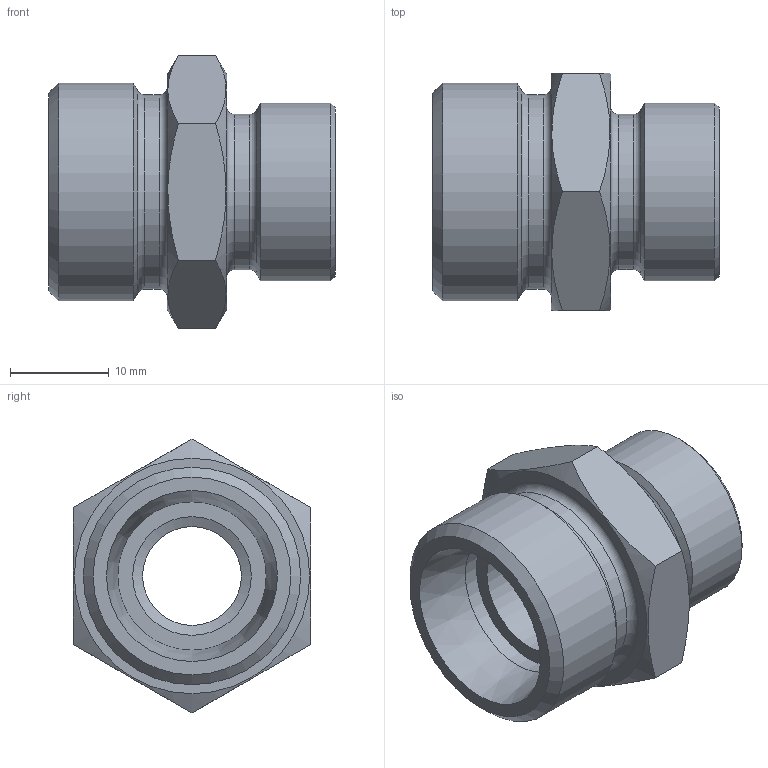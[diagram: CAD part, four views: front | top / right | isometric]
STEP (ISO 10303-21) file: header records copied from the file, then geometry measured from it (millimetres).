
FILE_DESCRIPTION( ( 'Unknown' ), '1' );
FILE_NAME( 'C:/Users/p.nanko/Desktop/3D SR/XGR1512L.stp', 'Unknown', ( 'Peter Nanko' ), ( 'Armaturen Arndt' ), 'PSStep 14.0', 'Solid Edge ST4', ' ' );
FILE_SCHEMA( ( 'AUTOMOTIVE_DESIGN { 1 0 10303 214 1 1 1 1 }' ) );
Length unit declared in the file: millimetre
Products named in the file (1): 1
Bounding box: 29 x 24 x 27.71 mm (x, y, z)
Volume: 6104.1 mm3; surface area: 3850.3 mm2
Topology: 1 solids, 1 shells, 33 faces, 70 edges, 43 vertices
Faces by surface type: plane 12, cone 9, cylinder 8, torus 4
Full cylindrical faces by diameter (mm): 10 x1, 12 x2, 15 x1, 15.7 x1, 18 x1, 19.7 x1, 22 x1
Entity records: 1124 total; most frequent: CARTESIAN_POINT 248, DIRECTION 126, ORIENTED_EDGE 88, AXIS2_PLACEMENT_3D 60, EDGE_LOOP 60, FACE_OUTER_BOUND 45, EDGE_CURVE 44, VERTEX_POINT 38
